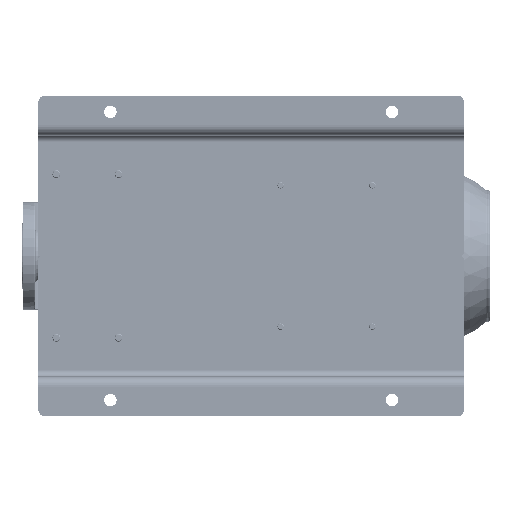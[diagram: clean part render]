
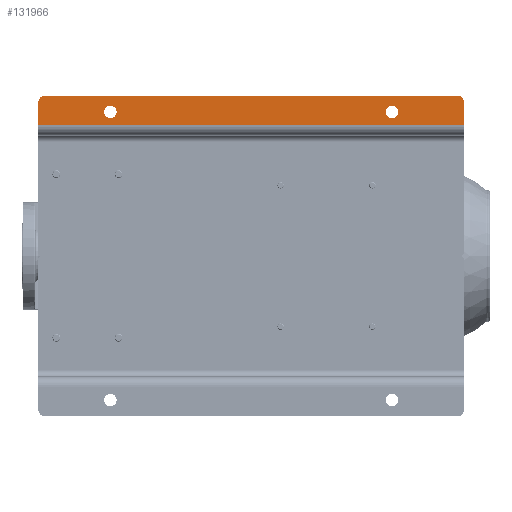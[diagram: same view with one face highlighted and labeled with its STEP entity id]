
A CAD part, front view. The second image highlights one B-rep face of the part: STEP entity #131966.
In plain terms, the highlighted planar face has unit normal (0, -1, 0).
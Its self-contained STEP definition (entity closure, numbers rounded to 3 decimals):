
#5024 = EDGE_CURVE ( 'NONE', #78029, #97763, #47956, .T. ) ;
#9017 = AXIS2_PLACEMENT_3D ( 'NONE', #103871, #165306, #30830 ) ;
#18200 = DIRECTION ( 'NONE',  ( 0., -1., 0. ) ) ;
#26186 = EDGE_CURVE ( 'NONE', #49772, #38637, #110315, .T. ) ;
#26264 = CARTESIAN_POINT ( 'NONE',  ( 445., 0., -650. ) ) ;
#26858 = CARTESIAN_POINT ( 'NONE',  ( 429., 0., -650. ) ) ;
#27907 = CARTESIAN_POINT ( 'NONE',  ( 474.5, 0., -540. ) ) ;
#28626 = EDGE_CURVE ( 'NONE', #62402, #71951, #149186, .T. ) ;
#30264 = ORIENTED_EDGE ( 'NONE', *, *, #81388, .T. ) ;
#30341 = CIRCLE ( 'NONE', #183723, 10. ) ;
#30491 = AXIS2_PLACEMENT_3D ( 'NONE', #118055, #150653, #121810 ) ;
#30830 = DIRECTION ( 'NONE',  ( 0., 0., -1. ) ) ;
#33052 = ORIENTED_EDGE ( 'NONE', *, *, #187196, .T. ) ;
#33472 = DIRECTION ( 'NONE',  ( 1., 0., 0. ) ) ;
#33566 = FACE_BOUND ( 'NONE', #68965, .T. ) ;
#34187 = CARTESIAN_POINT ( 'NONE',  ( 455.5, 0., -540. ) ) ;
#34333 = VECTOR ( 'NONE', #86456, 1000. ) ;
#34464 = CARTESIAN_POINT ( 'NONE',  ( 429., 0., 0. ) ) ;
#34928 = DIRECTION ( 'NONE',  ( 0., 0., -1. ) ) ;
#36395 = CARTESIAN_POINT ( 'NONE',  ( 445., 0., 0. ) ) ;
#38637 = VERTEX_POINT ( 'NONE', #87319 ) ;
#43606 = VECTOR ( 'NONE', #76173, 1000. ) ;
#45201 = CARTESIAN_POINT ( 'NONE',  ( 465., 0., -540. ) ) ;
#46148 = FACE_BOUND ( 'NONE', #82493, .T. ) ;
#47956 = LINE ( 'NONE', #34464, #187954 ) ;
#48059 = DIRECTION ( 'NONE',  ( 0., 0., -1. ) ) ;
#48290 = CARTESIAN_POINT ( 'NONE',  ( 480., 0., -650. ) ) ;
#48959 = ORIENTED_EDGE ( 'NONE', *, *, #151364, .T. ) ;
#49772 = VERTEX_POINT ( 'NONE', #159893 ) ;
#51836 = DIRECTION ( 'NONE',  ( 0., 1., 0. ) ) ;
#55983 = CIRCLE ( 'NONE', #119931, 9.5 ) ;
#57728 = AXIS2_PLACEMENT_3D ( 'NONE', #187046, #131286, #70784 ) ;
#62402 = VERTEX_POINT ( 'NONE', #113447 ) ;
#64321 = CARTESIAN_POINT ( 'NONE',  ( 465., 0., -540. ) ) ;
#67553 = ORIENTED_EDGE ( 'NONE', *, *, #26186, .T. ) ;
#68965 = EDGE_LOOP ( 'NONE', ( #188506, #87447 ) ) ;
#70125 = LINE ( 'NONE', #26858, #34333 ) ;
#70249 = CARTESIAN_POINT ( 'NONE',  ( 490., 0., -10. ) ) ;
#70784 = DIRECTION ( 'NONE',  ( 0., 0., -1. ) ) ;
#71951 = VERTEX_POINT ( 'NONE', #70249 ) ;
#72092 = DIRECTION ( 'NONE',  ( 0., 0., -1. ) ) ;
#72797 = EDGE_LOOP ( 'NONE', ( #163609, #133600, #33052, #30264, #122155, #119346 ) ) ;
#74033 = PLANE ( 'NONE',  #116765 ) ;
#76173 = DIRECTION ( 'NONE',  ( 0., 0., 1. ) ) ;
#78029 = VERTEX_POINT ( 'NONE', #36395 ) ;
#78159 = CARTESIAN_POINT ( 'NONE',  ( 445., 0., -650. ) ) ;
#81388 = EDGE_CURVE ( 'NONE', #98725, #62402, #110195, .T. ) ;
#82493 = EDGE_LOOP ( 'NONE', ( #67553, #48959 ) ) ;
#83675 = CIRCLE ( 'NONE', #108061, 9.5 ) ;
#86456 = DIRECTION ( 'NONE',  ( 1., 0., 0. ) ) ;
#87319 = CARTESIAN_POINT ( 'NONE',  ( 474.5, 0., -110. ) ) ;
#87447 = ORIENTED_EDGE ( 'NONE', *, *, #115313, .T. ) ;
#92209 = FACE_OUTER_BOUND ( 'NONE', #72797, .T. ) ;
#97763 = VERTEX_POINT ( 'NONE', #107946 ) ;
#98725 = VERTEX_POINT ( 'NONE', #48290 ) ;
#101078 = VERTEX_POINT ( 'NONE', #34187 ) ;
#103038 = EDGE_CURVE ( 'NONE', #71951, #97763, #30341, .T. ) ;
#103734 = CARTESIAN_POINT ( 'NONE',  ( 480., 0., -10. ) ) ;
#103775 = DIRECTION ( 'NONE',  ( 0., 0., -1. ) ) ;
#103871 = CARTESIAN_POINT ( 'NONE',  ( 480., 0., -640. ) ) ;
#105135 = EDGE_CURVE ( 'NONE', #78029, #164035, #121368, .T. ) ;
#105689 = CARTESIAN_POINT ( 'NONE',  ( 429., 0., -650. ) ) ;
#107946 = CARTESIAN_POINT ( 'NONE',  ( 480., 0., 0. ) ) ;
#108061 = AXIS2_PLACEMENT_3D ( 'NONE', #45201, #147984, #103775 ) ;
#110195 = CIRCLE ( 'NONE', #9017, 10. ) ;
#110315 = CIRCLE ( 'NONE', #30491, 9.5 ) ;
#113447 = CARTESIAN_POINT ( 'NONE',  ( 490., 0., -640. ) ) ;
#115313 = EDGE_CURVE ( 'NONE', #164478, #101078, #83675, .T. ) ;
#116765 = AXIS2_PLACEMENT_3D ( 'NONE', #105689, #18200, #178720 ) ;
#118055 = CARTESIAN_POINT ( 'NONE',  ( 465., 0., -110. ) ) ;
#118968 = CIRCLE ( 'NONE', #57728, 9.5 ) ;
#119346 = ORIENTED_EDGE ( 'NONE', *, *, #103038, .T. ) ;
#119931 = AXIS2_PLACEMENT_3D ( 'NONE', #64321, #51836, #48059 ) ;
#121368 = LINE ( 'NONE', #78159, #162567 ) ;
#121810 = DIRECTION ( 'NONE',  ( 0., 0., -1. ) ) ;
#122155 = ORIENTED_EDGE ( 'NONE', *, *, #28626, .T. ) ;
#131286 = DIRECTION ( 'NONE',  ( 0., 1., 0. ) ) ;
#131966 = ADVANCED_FACE ( 'NONE', ( #46148, #33566, #92209 ), #74033, .T. ) ;
#133600 = ORIENTED_EDGE ( 'NONE', *, *, #105135, .T. ) ;
#147984 = DIRECTION ( 'NONE',  ( 0., 1., 0. ) ) ;
#149186 = LINE ( 'NONE', #180847, #43606 ) ;
#150653 = DIRECTION ( 'NONE',  ( 0., 1., 0. ) ) ;
#151364 = EDGE_CURVE ( 'NONE', #38637, #49772, #118968, .T. ) ;
#159893 = CARTESIAN_POINT ( 'NONE',  ( 455.5, 0., -110. ) ) ;
#162336 = DIRECTION ( 'NONE',  ( 0., -1., 0. ) ) ;
#162567 = VECTOR ( 'NONE', #34928, 1000. ) ;
#163609 = ORIENTED_EDGE ( 'NONE', *, *, #5024, .F. ) ;
#164035 = VERTEX_POINT ( 'NONE', #26264 ) ;
#164478 = VERTEX_POINT ( 'NONE', #27907 ) ;
#164753 = EDGE_CURVE ( 'NONE', #101078, #164478, #55983, .T. ) ;
#165306 = DIRECTION ( 'NONE',  ( 0., -1., 0. ) ) ;
#178720 = DIRECTION ( 'NONE',  ( 0., 0., -1. ) ) ;
#180847 = CARTESIAN_POINT ( 'NONE',  ( 490., 0., -650. ) ) ;
#183723 = AXIS2_PLACEMENT_3D ( 'NONE', #103734, #162336, #72092 ) ;
#187046 = CARTESIAN_POINT ( 'NONE',  ( 465., 0., -110. ) ) ;
#187196 = EDGE_CURVE ( 'NONE', #164035, #98725, #70125, .T. ) ;
#187954 = VECTOR ( 'NONE', #33472, 1000. ) ;
#188506 = ORIENTED_EDGE ( 'NONE', *, *, #164753, .T. ) ;
